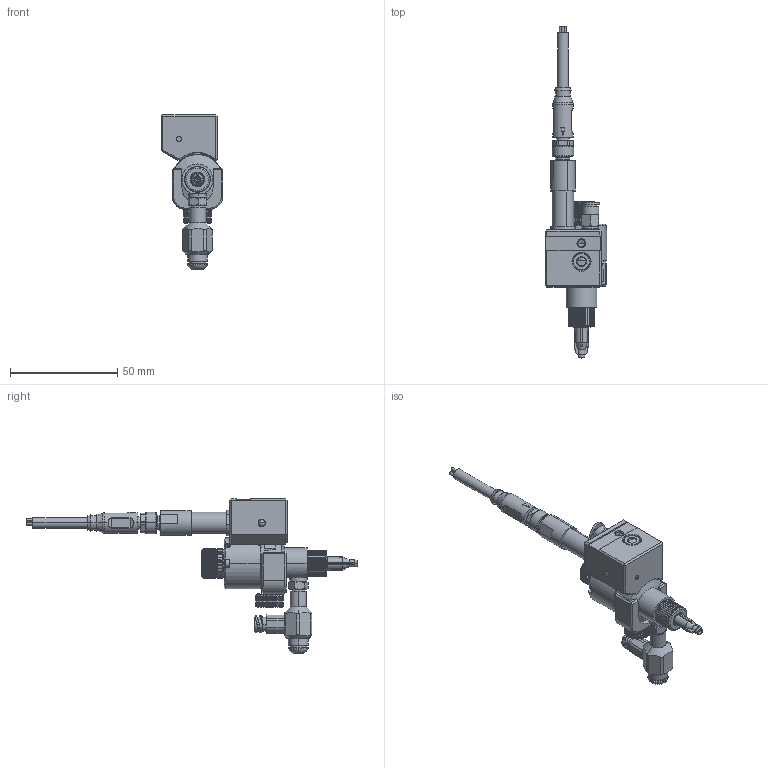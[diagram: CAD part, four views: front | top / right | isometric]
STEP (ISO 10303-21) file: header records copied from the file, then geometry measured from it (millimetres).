
FILE_DESCRIPTION (( 'STEP AP214' ), '1' );
FILE_NAME ('NORDSONEFD-7360821 VALVE XQR41 STR CTRL BP BULLET.STEP', '2019-02-21T15:32:40', ( '' ), ( '' ), 'SwSTEP 2.0', 'SolidWorks 2019', '' );
FILE_SCHEMA (( 'AUTOMOTIVE_DESIGN' ));
Length unit declared in the file: inch
Products named in the file (1): NORDSONEFD-7360821  VALVE XQR41 STR CTRL BP BULLET
Bounding box: 28.7 x 154.44 x 72.05 mm (x, y, z)
Volume: 40695.1 mm3; surface area: 16094.1 mm2
Topology: 1 solids, 18 shells, 2789 faces, 6715 edges, 4018 vertices
Faces by surface type: bspline 987, plane 824, cylinder 594, cone 336, torus 36, sphere 12
Entity records: 97254 total; most frequent: CARTESIAN_POINT 44127, ORIENTED_EDGE 13414, DIRECTION 8203, EDGE_CURVE 6707, VERTEX_POINT 4018, AXIS2_PLACEMENT_3D 3155, EDGE_LOOP 2887, FACE_OUTER_BOUND 2789
